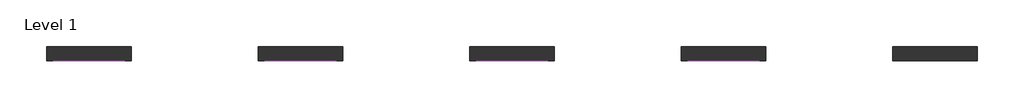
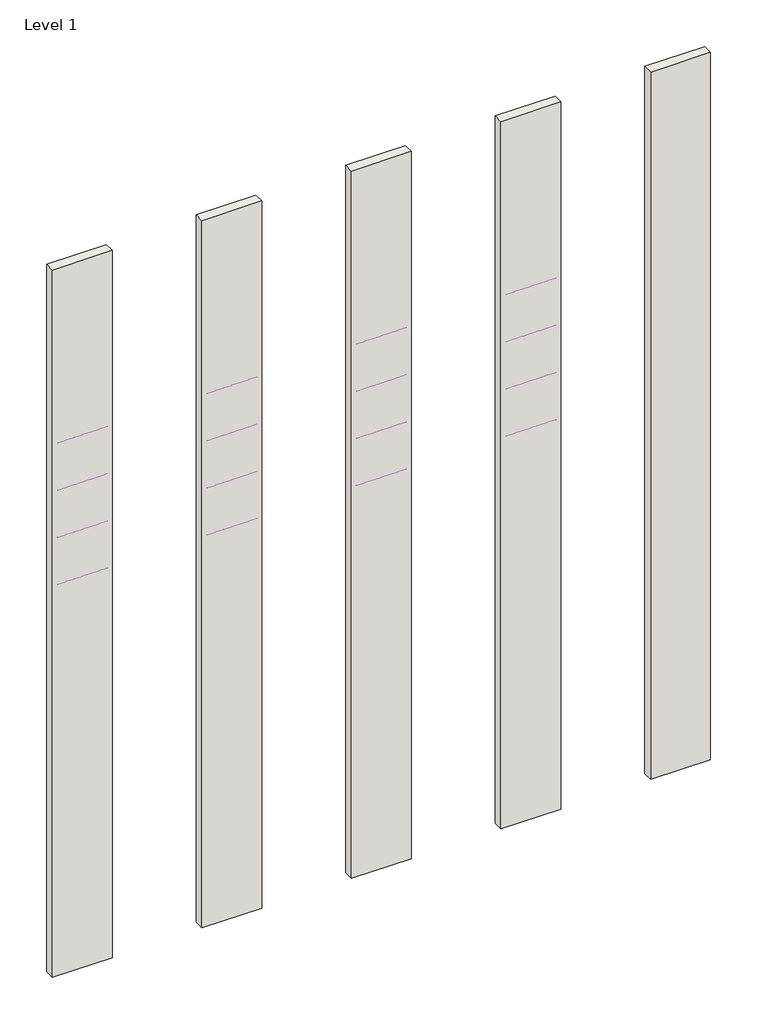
# One storey: 16 coverings, 5 walls.
"""IFC4 building model written with IfcOpenShell, lengths in millimetres."""

from ifc_helpers import new_model, si_unit, point, frame, frame_2d, origin, origin_with_axes, place, context, project, spatial, polyline, circle_curve, trimmed, segment, composite_curve, outline, extrude, element, save

model = new_model("IFC4")

# Units and contexts
model_context = context("Model", 3, world=origin())
ifc_project = project(units=[si_unit("LENGTHUNIT", "METRE", prefix="MILLI")], contexts=[model_context])

# Site, building, storey
site = spatial("IfcSite", under=ifc_project)
building = spatial("IfcBuilding", under=site)
storey = spatial("IfcBuildingStorey", under=building, Name="Level 1", Elevation=0.0)

# Coverings
placement = place(None, origin())
element("IfcCovering", 1, ObjectType="REVIGRES-ELEMENTS-RB-8x118.6-SOFT-CARBON", at=placement, inside=storey, context=model_context, shape_type="SweptSolid", body=[
    extrude(outline(composite_curve([segment(polyline([(-6973.1153225, 8300.0), (-6982.9153225, 8300.0), (-6982.9153225, 8370.2)]), True, "CONTINUOUS"), segment(trimmed(circle_curve(frame_2d((-6973.1153225, 8370.2)), 9.8), [point((-6982.9153225, 8370.2))], [point((-6973.1153225, 8380.0))], False, "CARTESIAN"), True, "CONTINUOUS"), segment(polyline([(-6973.1153225, 8380.0), (-6973.1153225, 8300.0)]), True, "CONTINUOUS")], self_intersect=False)), frame((6292.0023157, 0.0, 0.0), z_axis=(1.0, 0.0, 0.0), x_axis=(0.0, 1.0, 0.0)), (0.0, 0.0, 1.0), 1000.0),
])
element("IfcCovering", 2, ObjectType="REVIGRES-ELEMENTS-RB-8x59.2-SOFT-FOG", at=placement, inside=storey, context=model_context, shape_type="SweptSolid", body=[
    extrude(outline(composite_curve([segment(polyline([(-6973.1153225, 10300.0), (-6981.6153225, 10300.0), (-6981.6153225, 10371.5)]), True, "CONTINUOUS"), segment(trimmed(circle_curve(frame_2d((-6973.1153225, 10371.5)), 8.5), [point((-6981.6153225, 10371.5))], [point((-6973.1153225, 10380.0))], False, "CARTESIAN"), True, "CONTINUOUS"), segment(polyline([(-6973.1153225, 10380.0), (-6973.1153225, 10300.0)]), True, "CONTINUOUS")], self_intersect=False)), frame((9292.0023157, 0.0, 0.0), z_axis=(1.0, 0.0, 0.0), x_axis=(0.0, 1.0, 0.0)), (0.0, 0.0, 1.0), 1000.0),
])
element("IfcCovering", 3, ObjectType="REVIGRES-ELEMENTS-RB-8x59.2-SOFT-MIST", at=placement, inside=storey, context=model_context, shape_type="SweptSolid", body=[
    extrude(outline(composite_curve([segment(polyline([(-6973.1153225, 10300.0), (-6981.6153225, 10300.0), (-6981.6153225, 10371.5)]), True, "CONTINUOUS"), segment(trimmed(circle_curve(frame_2d((-6973.1153225, 10371.5)), 8.5), [point((-6981.6153225, 10371.5))], [point((-6973.1153225, 10380.0))], False, "CARTESIAN"), True, "CONTINUOUS"), segment(polyline([(-6973.1153225, 10380.0), (-6973.1153225, 10300.0)]), True, "CONTINUOUS")], self_intersect=False)), frame((12292.0023157, 0.0, 0.0), z_axis=(1.0, 0.0, 0.0), x_axis=(0.0, 1.0, 0.0)), (0.0, 0.0, 1.0), 1000.0),
])
element("IfcCovering", 4, ObjectType="REVIGRES-ELEMENTS-RB-8x59.2-SOFT-SMOKE", at=placement, inside=storey, context=model_context, shape_type="SweptSolid", body=[
    extrude(outline(composite_curve([segment(polyline([(-6973.1153225, 10300.0), (-6981.6153225, 10300.0), (-6981.6153225, 10371.5)]), True, "CONTINUOUS"), segment(trimmed(circle_curve(frame_2d((-6973.1153225, 10371.5)), 8.5), [point((-6981.6153225, 10371.5))], [point((-6973.1153225, 10380.0))], False, "CARTESIAN"), True, "CONTINUOUS"), segment(polyline([(-6973.1153225, 10380.0), (-6973.1153225, 10300.0)]), True, "CONTINUOUS")], self_intersect=False)), frame((15292.0023157, 0.0, 0.0), z_axis=(1.0, 0.0, 0.0), x_axis=(0.0, 1.0, 0.0)), (0.0, 0.0, 1.0), 1000.0),
])
element("IfcCovering", 5, ObjectType="REVIGRES-ELEMENTS-RB-8x59.2-SOFT-CARBON", at=placement, inside=storey, context=model_context, shape_type="SweptSolid", body=[
    extrude(outline(composite_curve([segment(polyline([(-6973.1153225, 10300.0), (-6981.6153225, 10300.0), (-6981.6153225, 10371.5)]), True, "CONTINUOUS"), segment(trimmed(circle_curve(frame_2d((-6973.1153225, 10371.5)), 8.5), [point((-6981.6153225, 10371.5))], [point((-6973.1153225, 10380.0))], False, "CARTESIAN"), True, "CONTINUOUS"), segment(polyline([(-6973.1153225, 10380.0), (-6973.1153225, 10300.0)]), True, "CONTINUOUS")], self_intersect=False)), frame((6292.0023157, 0.0, 0.0), z_axis=(1.0, 0.0, 0.0), x_axis=(0.0, 1.0, 0.0)), (0.0, 0.0, 1.0), 1000.0),
])
element("IfcCovering", 6, ObjectType="REVIGRES-ELEMENTS-RB-8x118.6-SOFT-FOG", at=placement, inside=storey, context=model_context, shape_type="SweptSolid", body=[
    extrude(outline(composite_curve([segment(polyline([(-6973.1153225, 8300.0), (-6982.9153225, 8300.0), (-6982.9153225, 8370.2)]), True, "CONTINUOUS"), segment(trimmed(circle_curve(frame_2d((-6973.1153225, 8370.2)), 9.8), [point((-6982.9153225, 8370.2))], [point((-6973.1153225, 8380.0))], False, "CARTESIAN"), True, "CONTINUOUS"), segment(polyline([(-6973.1153225, 8380.0), (-6973.1153225, 8300.0)]), True, "CONTINUOUS")], self_intersect=False)), frame((9292.0023157, 0.0, 0.0), z_axis=(1.0, 0.0, 0.0), x_axis=(0.0, 1.0, 0.0)), (0.0, 0.0, 1.0), 1000.0),
])
element("IfcCovering", 7, ObjectType="REVIGRES-ELEMENTS-RB-8x118.6-SOFT-MIST", at=placement, inside=storey, context=model_context, shape_type="SweptSolid", body=[
    extrude(outline(composite_curve([segment(polyline([(-6973.1153225, 8300.0), (-6982.9153225, 8300.0), (-6982.9153225, 8370.2)]), True, "CONTINUOUS"), segment(trimmed(circle_curve(frame_2d((-6973.1153225, 8370.2)), 9.8), [point((-6982.9153225, 8370.2))], [point((-6973.1153225, 8380.0))], False, "CARTESIAN"), True, "CONTINUOUS"), segment(polyline([(-6973.1153225, 8380.0), (-6973.1153225, 8300.0)]), True, "CONTINUOUS")], self_intersect=False)), frame((12292.0023157, 0.0, 0.0), z_axis=(1.0, 0.0, 0.0), x_axis=(0.0, 1.0, 0.0)), (0.0, 0.0, 1.0), 1000.0),
])
element("IfcCovering", 8, ObjectType="REVIGRES-ELEMENTS-RB-8x118.6-SOFT-SMOKE", at=placement, inside=storey, context=model_context, shape_type="SweptSolid", body=[
    extrude(outline(composite_curve([segment(polyline([(-6973.1153225, 8300.0), (-6982.9153225, 8300.0), (-6982.9153225, 8370.2)]), True, "CONTINUOUS"), segment(trimmed(circle_curve(frame_2d((-6973.1153225, 8370.2)), 9.8), [point((-6982.9153225, 8370.2))], [point((-6973.1153225, 8380.0))], False, "CARTESIAN"), True, "CONTINUOUS"), segment(polyline([(-6973.1153225, 8380.0), (-6973.1153225, 8300.0)]), True, "CONTINUOUS")], self_intersect=False)), frame((15292.0023157, 0.0, 0.0), z_axis=(1.0, 0.0, 0.0), x_axis=(0.0, 1.0, 0.0)), (0.0, 0.0, 1.0), 1000.0),
])
element("IfcCovering", 9, ObjectType="REVIGRES-ELEMENTS-RB-8x44.35-SOFT-CARBON", at=placement, inside=storey, context=model_context, shape_type="SweptSolid", body=[
    extrude(outline(composite_curve([segment(polyline([(-6973.1153225, 11300.0), (-6981.3153225, 11300.0), (-6981.3153225, 11371.8)]), True, "CONTINUOUS"), segment(trimmed(circle_curve(frame_2d((-6973.1153225, 11371.8)), 8.2), [point((-6981.3153225, 11371.8))], [point((-6973.1153225, 11380.0))], False, "CARTESIAN"), True, "CONTINUOUS"), segment(polyline([(-6973.1153225, 11380.0), (-6973.1153225, 11300.0)]), True, "CONTINUOUS")], self_intersect=False)), frame((6292.0023157, 0.0, 0.0), z_axis=(1.0, 0.0, 0.0), x_axis=(0.0, 1.0, 0.0)), (0.0, 0.0, 1.0), 1000.0),
])
element("IfcCovering", 10, ObjectType="REVIGRES-ELEMENTS-RB-8x88.9-SOFT-FOG", at=placement, inside=storey, context=model_context, shape_type="SweptSolid", body=[
    extrude(outline(composite_curve([segment(polyline([(-6973.1153225, 9300.0), (-6983.6153225, 9300.0), (-6983.6153225, 9369.5)]), True, "CONTINUOUS"), segment(trimmed(circle_curve(frame_2d((-6973.1153225, 9369.5)), 10.5), [point((-6983.6153225, 9369.5))], [point((-6973.1153225, 9380.0))], False, "CARTESIAN"), True, "CONTINUOUS"), segment(polyline([(-6973.1153225, 9380.0), (-6973.1153225, 9300.0)]), True, "CONTINUOUS")], self_intersect=False)), frame((9292.0023157, 0.0, 0.0), z_axis=(1.0, 0.0, 0.0), x_axis=(0.0, 1.0, 0.0)), (0.0, 0.0, 1.0), 1000.0),
])
element("IfcCovering", 11, ObjectType="REVIGRES-ELEMENTS-RB-8x88.9-SOFT-MIST", at=placement, inside=storey, context=model_context, shape_type="SweptSolid", body=[
    extrude(outline(composite_curve([segment(polyline([(-6973.1153225, 9300.0), (-6983.6153225, 9300.0), (-6983.6153225, 9369.5)]), True, "CONTINUOUS"), segment(trimmed(circle_curve(frame_2d((-6973.1153225, 9369.5)), 10.5), [point((-6983.6153225, 9369.5))], [point((-6973.1153225, 9380.0))], False, "CARTESIAN"), True, "CONTINUOUS"), segment(polyline([(-6973.1153225, 9380.0), (-6973.1153225, 9300.0)]), True, "CONTINUOUS")], self_intersect=False)), frame((12292.0023157, 0.0, 0.0), z_axis=(1.0, 0.0, 0.0), x_axis=(0.0, 1.0, 0.0)), (0.0, 0.0, 1.0), 1000.0),
])
element("IfcCovering", 12, ObjectType="REVIGRES-ELEMENTS-RB-8x88.9-SOFT-SMOKE", at=placement, inside=storey, context=model_context, shape_type="SweptSolid", body=[
    extrude(outline(composite_curve([segment(polyline([(-6973.1153225, 9300.0), (-6983.6153225, 9300.0), (-6983.6153225, 9369.5)]), True, "CONTINUOUS"), segment(trimmed(circle_curve(frame_2d((-6973.1153225, 9369.5)), 10.5), [point((-6983.6153225, 9369.5))], [point((-6973.1153225, 9380.0))], False, "CARTESIAN"), True, "CONTINUOUS"), segment(polyline([(-6973.1153225, 9380.0), (-6973.1153225, 9300.0)]), True, "CONTINUOUS")], self_intersect=False)), frame((15292.0023157, 0.0, 0.0), z_axis=(1.0, 0.0, 0.0), x_axis=(0.0, 1.0, 0.0)), (0.0, 0.0, 1.0), 1000.0),
])
element("IfcCovering", 13, ObjectType="REVIGRES-ELEMENTS-RB-8x88.9-SOFT-CARBON", at=placement, inside=storey, context=model_context, shape_type="SweptSolid", body=[
    extrude(outline(composite_curve([segment(polyline([(-6973.1153225, 9300.0), (-6983.6153225, 9300.0), (-6983.6153225, 9369.5)]), True, "CONTINUOUS"), segment(trimmed(circle_curve(frame_2d((-6973.1153225, 9369.5)), 10.5), [point((-6983.6153225, 9369.5))], [point((-6973.1153225, 9380.0))], False, "CARTESIAN"), True, "CONTINUOUS"), segment(polyline([(-6973.1153225, 9380.0), (-6973.1153225, 9300.0)]), True, "CONTINUOUS")], self_intersect=False)), frame((6292.0023157, 0.0, 0.0), z_axis=(1.0, 0.0, 0.0), x_axis=(0.0, 1.0, 0.0)), (0.0, 0.0, 1.0), 1000.0),
])
element("IfcCovering", 14, ObjectType="REVIGRES-ELEMENTS-RB-8x44.35-SOFT-FOG", at=placement, inside=storey, context=model_context, shape_type="SweptSolid", body=[
    extrude(outline(composite_curve([segment(polyline([(-6973.1153225, 11300.0), (-6981.3153225, 11300.0), (-6981.3153225, 11371.8)]), True, "CONTINUOUS"), segment(trimmed(circle_curve(frame_2d((-6973.1153225, 11371.8)), 8.2), [point((-6981.3153225, 11371.8))], [point((-6973.1153225, 11380.0))], False, "CARTESIAN"), True, "CONTINUOUS"), segment(polyline([(-6973.1153225, 11380.0), (-6973.1153225, 11300.0)]), True, "CONTINUOUS")], self_intersect=False)), frame((9292.0023157, 0.0, 0.0), z_axis=(1.0, 0.0, 0.0), x_axis=(0.0, 1.0, 0.0)), (0.0, 0.0, 1.0), 1000.0),
])
element("IfcCovering", 15, ObjectType="REVIGRES-ELEMENTS-RB-8x44.35-SOFT-MIST", at=placement, inside=storey, context=model_context, shape_type="SweptSolid", body=[
    extrude(outline(composite_curve([segment(polyline([(-6973.1153225, 11300.0), (-6981.3153225, 11300.0), (-6981.3153225, 11371.8)]), True, "CONTINUOUS"), segment(trimmed(circle_curve(frame_2d((-6973.1153225, 11371.8)), 8.2), [point((-6981.3153225, 11371.8))], [point((-6973.1153225, 11380.0))], False, "CARTESIAN"), True, "CONTINUOUS"), segment(polyline([(-6973.1153225, 11380.0), (-6973.1153225, 11300.0)]), True, "CONTINUOUS")], self_intersect=False)), frame((12292.0023157, 0.0, 0.0), z_axis=(1.0, 0.0, 0.0), x_axis=(0.0, 1.0, 0.0)), (0.0, 0.0, 1.0), 1000.0),
])
element("IfcCovering", 16, ObjectType="REVIGRES-ELEMENTS-RB-8x44.35-SOFT-SMOKE", at=placement, inside=storey, context=model_context, shape_type="SweptSolid", body=[
    extrude(outline(composite_curve([segment(polyline([(-6973.1153225, 11300.0), (-6981.3153225, 11300.0), (-6981.3153225, 11371.8)]), True, "CONTINUOUS"), segment(trimmed(circle_curve(frame_2d((-6973.1153225, 11371.8)), 8.2), [point((-6981.3153225, 11371.8))], [point((-6973.1153225, 11380.0))], False, "CARTESIAN"), True, "CONTINUOUS"), segment(polyline([(-6973.1153225, 11380.0), (-6973.1153225, 11300.0)]), True, "CONTINUOUS")], self_intersect=False)), frame((15292.0023157, 0.0, 0.0), z_axis=(1.0, 0.0, 0.0), x_axis=(0.0, 1.0, 0.0)), (0.0, 0.0, 1.0), 1000.0),
])

# Walls
element("IfcWall", 17, ObjectType="Wall 1", at=placement, inside=storey, context=model_context, shape_type="SweptSolid", body=[
    extrude(outline(polyline([(7392.0023157, -6973.1153225), (6192.0023157, -6973.1153225), (6192.0023157, -6773.1153225), (7392.0023157, -6773.1153225), (7392.0023157, -6973.1153225)])), origin_with_axes(), (0.0, 0.0, 1.0), 15000.0),
])
element("IfcWall", 18, ObjectType="Wall 1", at=placement, inside=storey, context=model_context, shape_type="SweptSolid", body=[
    extrude(outline(polyline([(10392.0023157, -6973.1153225), (9192.0023157, -6973.1153225), (9192.0023157, -6773.1153225), (10392.0023157, -6773.1153225), (10392.0023157, -6973.1153225)])), origin_with_axes(), (0.0, 0.0, 1.0), 15000.0),
])
element("IfcWall", 19, ObjectType="Wall 1", at=placement, inside=storey, context=model_context, shape_type="SweptSolid", body=[
    extrude(outline(polyline([(13392.0023157, -6973.1153225), (12192.0023157, -6973.1153225), (12192.0023157, -6773.1153225), (13392.0023157, -6773.1153225), (13392.0023157, -6973.1153225)])), origin_with_axes(), (0.0, 0.0, 1.0), 15000.0),
])
element("IfcWall", 20, ObjectType="Wall 1", at=placement, inside=storey, context=model_context, shape_type="SweptSolid", body=[
    extrude(outline(polyline([(16392.0023157, -6973.1153225), (15192.0023157, -6973.1153225), (15192.0023157, -6773.1153225), (16392.0023157, -6773.1153225), (16392.0023157, -6973.1153225)])), origin_with_axes(), (0.0, 0.0, 1.0), 15000.0),
])
element("IfcWall", 21, ObjectType="Wall 1", at=placement, inside=storey, context=model_context, shape_type="SweptSolid", body=[
    extrude(outline(polyline([(19392.0023157, -6973.1153225), (18192.0023157, -6973.1153225), (18192.0023157, -6773.1153225), (19392.0023157, -6773.1153225), (19392.0023157, -6973.1153225)])), origin_with_axes(), (0.0, 0.0, 1.0), 15000.0),
])

save(model, "model.ifc")
